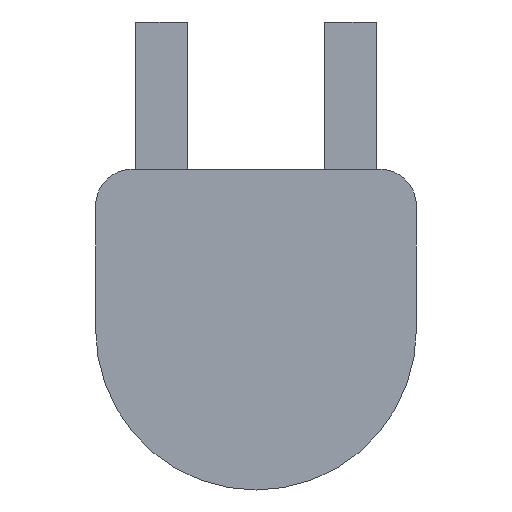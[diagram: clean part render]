
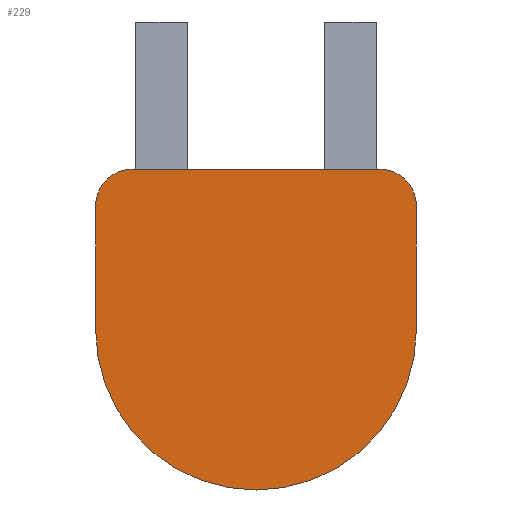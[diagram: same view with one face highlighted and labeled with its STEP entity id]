
A CAD part, front view. The second image highlights one B-rep face of the part: STEP entity #229.
In plain terms, the highlighted planar face has unit normal (0, -1, 0).
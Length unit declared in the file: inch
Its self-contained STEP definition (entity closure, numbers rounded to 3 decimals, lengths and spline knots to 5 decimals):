
#19 = VERTEX_POINT ( 'NONE', #155 ) ;
#25 = EDGE_CURVE ( 'NONE', #287, #474, #214, .T. ) ;
#29 = VERTEX_POINT ( 'NONE', #160 ) ;
#33 = DIRECTION ( 'NONE',  ( 0., 1., 0. ) ) ;
#39 = VERTEX_POINT ( 'NONE', #525 ) ;
#49 = LINE ( 'NONE', #227, #351 ) ;
#52 = EDGE_CURVE ( 'NONE', #39, #19, #379, .T. ) ;
#54 = VECTOR ( 'NONE', #427, 39.37008 ) ;
#57 = CARTESIAN_POINT ( 'NONE',  ( 0.55, 0., 0. ) ) ;
#62 = EDGE_CURVE ( 'NONE', #413, #29, #263, .T. ) ;
#72 = CARTESIAN_POINT ( 'NONE',  ( -0.425, 0., 0.425 ) ) ;
#77 = DIRECTION ( 'NONE',  ( 1., 0., 0. ) ) ;
#103 = AXIS2_PLACEMENT_3D ( 'NONE', #362, #495, #323 ) ;
#104 = ORIENTED_EDGE ( 'NONE', *, *, #197, .F. ) ;
#108 = AXIS2_PLACEMENT_3D ( 'NONE', #158, #343, #563 ) ;
#110 = CARTESIAN_POINT ( 'NONE',  ( 0., 0., 0. ) ) ;
#111 = ORIENTED_EDGE ( 'NONE', *, *, #62, .F. ) ;
#125 = AXIS2_PLACEMENT_3D ( 'NONE', #110, #419, #417 ) ;
#129 = ORIENTED_EDGE ( 'NONE', *, *, #52, .F. ) ;
#155 = CARTESIAN_POINT ( 'NONE',  ( -0.55, 0., 0.425 ) ) ;
#158 = CARTESIAN_POINT ( 'NONE',  ( 0., 0., 0. ) ) ;
#160 = CARTESIAN_POINT ( 'NONE',  ( 0.55, 0., 0.425 ) ) ;
#167 = DIRECTION ( 'NONE',  ( 0., 1., 0. ) ) ;
#185 = FACE_OUTER_BOUND ( 'NONE', #211, .T. ) ;
#188 = AXIS2_PLACEMENT_3D ( 'NONE', #72, #167, #342 ) ;
#197 = EDGE_CURVE ( 'NONE', #488, #413, #49, .T. ) ;
#211 = EDGE_LOOP ( 'NONE', ( #129, #331, #249, #575, #111, #104, #414 ) ) ;
#213 = CARTESIAN_POINT ( 'NONE',  ( -0.55, 0., 0. ) ) ;
#214 = CIRCLE ( 'NONE', #108, 0.55 ) ;
#227 = CARTESIAN_POINT ( 'NONE',  ( 0., 0., 0.55 ) ) ;
#229 = ADVANCED_FACE ( 'NONE', ( #185 ), #320, .F. ) ;
#249 = ORIENTED_EDGE ( 'NONE', *, *, #25, .F. ) ;
#253 = CIRCLE ( 'NONE', #188, 0.125 ) ;
#263 = CIRCLE ( 'NONE', #370, 0.125 ) ;
#275 = VECTOR ( 'NONE', #336, 39.37008 ) ;
#283 = LINE ( 'NONE', #57, #54 ) ;
#287 = VERTEX_POINT ( 'NONE', #364 ) ;
#288 = EDGE_CURVE ( 'NONE', #29, #287, #283, .T. ) ;
#302 = DIRECTION ( 'NONE',  ( 0., 0., 1. ) ) ;
#320 = PLANE ( 'NONE',  #103 ) ;
#323 = DIRECTION ( 'NONE',  ( 0., 0., 1. ) ) ;
#327 = EDGE_CURVE ( 'NONE', #19, #488, #253, .T. ) ;
#331 = ORIENTED_EDGE ( 'NONE', *, *, #365, .F. ) ;
#336 = DIRECTION ( 'NONE',  ( 0., 0., 1. ) ) ;
#342 = DIRECTION ( 'NONE',  ( 0., 0., 1. ) ) ;
#343 = DIRECTION ( 'NONE',  ( 0., 1., 0. ) ) ;
#351 = VECTOR ( 'NONE', #77, 39.37008 ) ;
#362 = CARTESIAN_POINT ( 'NONE',  ( 0., 0., 0. ) ) ;
#364 = CARTESIAN_POINT ( 'NONE',  ( 0.55, 0., 0. ) ) ;
#365 = EDGE_CURVE ( 'NONE', #474, #39, #366, .T. ) ;
#366 = CIRCLE ( 'NONE', #125, 0.55 ) ;
#370 = AXIS2_PLACEMENT_3D ( 'NONE', #473, #33, #302 ) ;
#377 = CARTESIAN_POINT ( 'NONE',  ( -0.425, 0., 0.55 ) ) ;
#379 = LINE ( 'NONE', #213, #275 ) ;
#413 = VERTEX_POINT ( 'NONE', #489 ) ;
#414 = ORIENTED_EDGE ( 'NONE', *, *, #327, .F. ) ;
#417 = DIRECTION ( 'NONE',  ( 0., 0., 1. ) ) ;
#419 = DIRECTION ( 'NONE',  ( 0., 1., 0. ) ) ;
#427 = DIRECTION ( 'NONE',  ( 0., 0., -1. ) ) ;
#450 = CARTESIAN_POINT ( 'NONE',  ( 0., 0., -0.55 ) ) ;
#473 = CARTESIAN_POINT ( 'NONE',  ( 0.425, 0., 0.425 ) ) ;
#474 = VERTEX_POINT ( 'NONE', #450 ) ;
#488 = VERTEX_POINT ( 'NONE', #377 ) ;
#489 = CARTESIAN_POINT ( 'NONE',  ( 0.425, 0., 0.55 ) ) ;
#495 = DIRECTION ( 'NONE',  ( 0., 1., 0. ) ) ;
#525 = CARTESIAN_POINT ( 'NONE',  ( -0.55, 0., 0. ) ) ;
#563 = DIRECTION ( 'NONE',  ( 0., 0., 1. ) ) ;
#575 = ORIENTED_EDGE ( 'NONE', *, *, #288, .F. ) ;
